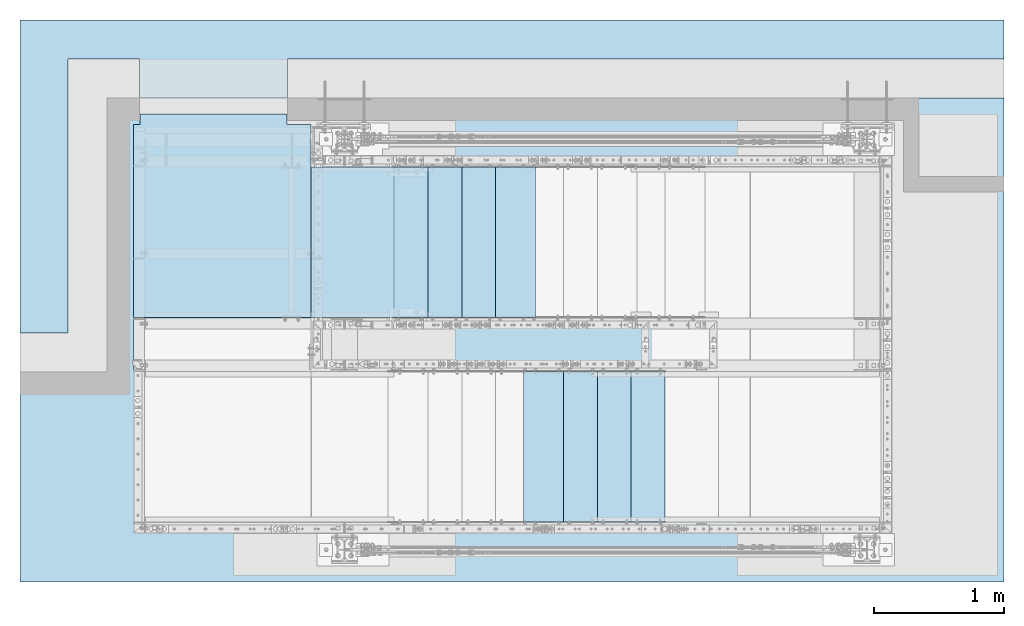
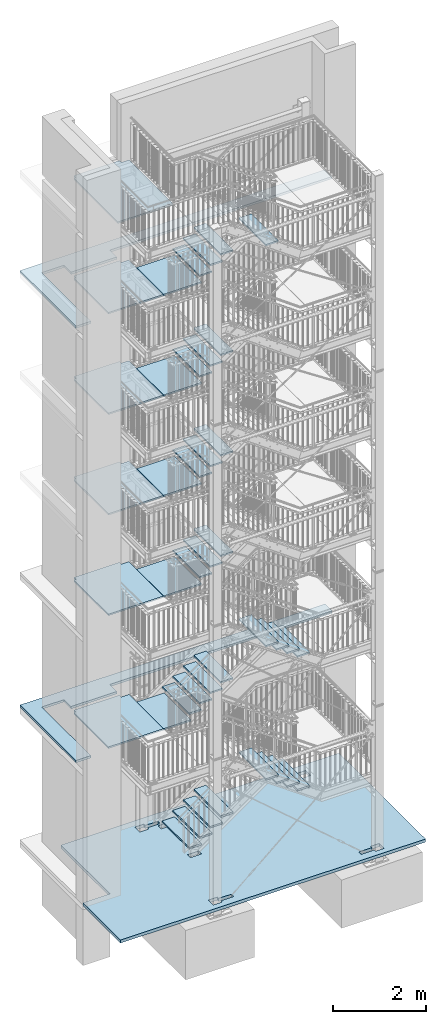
# One storey, part 145 of 831: 40 plates, 3 slabs, 26 openings.
"""IFC2X3 building model written with IfcOpenShell, lengths in millimetres."""

from ifc_helpers import new_model, entity, si_unit, converted_unit, frame, origin, origin_with_axes, place, context, project, spatial, polyline, outline, extrude, material, layer, layer_set, element, save


model = new_model("IFC2X3")

# Units and contexts
model_context = context("Model", 3, precision=1e-09, world=origin_with_axes())
ifc_project = project(units=[si_unit("LENGTHUNIT", "METRE", prefix="MILLI"), si_unit("AREAUNIT", "SQUARE_METRE"), si_unit("VOLUMEUNIT", "CUBIC_METRE"), converted_unit("PLANEANGLEUNIT", "DEGREE", entity("IfcPlaneAngleMeasure", 0.01745329), si_unit("PLANEANGLEUNIT", "RADIAN"), dimensions=[0, 0, 0, 0, 0, 0, 0])], contexts=[model_context])

# Site, building, storey
site_placement = place(None, origin_with_axes())
site = spatial("IfcSite", under=ifc_project, at=site_placement, Name="Site", CompositionType="ELEMENT")
building_placement = place(site_placement, origin_with_axes())
building = spatial("IfcBuilding", under=site, at=building_placement, Name="Struktur 1", CompositionType="ELEMENT")
storey_placement = place(building_placement, origin_with_axes())
storey = spatial("IfcBuildingStorey", under=building, at=storey_placement, Name="Default Storey", CompositionType="ELEMENT", Elevation=0.0)

# Plate, openings
ifc_material_1 = material(Name="S235JR")
ifc_layer_1 = layer(ifc_material_1, 40.0)
ifc_layer_set_1 = layer_set([ifc_layer_1], Name="S235JR")
plate_1_placement = place(None, frame((5236.713402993, 5736.736971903, 17834.0), z_axis=(0.0, 0.0, 1.0), x_axis=(-1.0, 0.0, 0.0)))
plate_1 = element("IfcPlate", 1, at=plate_1_placement, inside=storey, material=ifc_layer_set_1, Name="TopCoverGrate", ObjectType="TopCoverGrate", context=model_context, shape_type="SweptSolid", body=[
    extrude(outline(polyline([(635.0, -2.0), (635.0, -1975.0), (2000.0, -1975.0), (2000.0, -2.0), (635.0, -2.0)])), origin_with_axes(), (0.0, 0.0, 1.0), 40.0),
])
opening_1_placement = place(plate_1_placement, frame((0.0, 0.0, -0.1), z_axis=(0.0, 0.0, 1.0), x_axis=(-1.0, 0.0, 0.0)))
element("IfcOpeningElement", 2, at=opening_1_placement, cuts=plate_1, ObjectType="Opening", context=model_context, shape_type="SweptSolid", body=[
    extrude(outline(polyline([(-2047.903449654, 1895.002), (-1946.999292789, 1895.002), (-1946.999292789, 2034.091654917), (-2047.903449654, 2034.091654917), (-2047.903449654, 1895.002)])), origin(), (0.0, 0.0, 1.0), 40.2),
])
opening_2_placement = place(plate_1_placement, frame((0.0, 0.0, -0.1), z_axis=(0.0, 0.0, 1.0), x_axis=(-1.0, 0.0, 0.0)))
element("IfcOpeningElement", 3, at=opening_2_placement, cuts=plate_1, ObjectType="Opening", context=model_context, shape_type="SweptSolid", body=[
    extrude(outline(polyline([(-822.002, 1895.002), (-592.156333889, 1895.002), (-592.156333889, 2026.457267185), (-822.002, 2026.457267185), (-822.002, 1895.002)])), origin(), (0.0, 0.0, 1.0), 40.2),
])

plate_2_placement = place(None, frame((5541.713402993, 6148.736971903, 15254.0), z_axis=(0.0, 0.0, -1.0), x_axis=(-1.0, 0.0, 0.0)))
plate_2 = element("IfcPlate", 4, at=plate_2_placement, inside=storey, material=ifc_layer_set_1, Name="BottomCoverGrate", ObjectType="BottomCoverGrate", context=model_context, shape_type="SweptSolid", body=[
    extrude(outline(polyline([(940.0, 1563.0), (940.0, 0.0), (2305.0, 0.0), (2305.0, 1563.0), (940.0, 1563.0)])), origin_with_axes(), (0.0, 0.0, 1.0), 40.0),
])
opening_3_placement = place(plate_2_placement, frame((0.0, 0.0, -0.1), z_axis=(0.0, 0.0, 1.0), x_axis=(0.0, 1.0, 0.0)))
element("IfcOpeningElement", 5, at=opening_3_placement, cuts=plate_2, ObjectType="Opening", context=model_context, shape_type="SweptSolid", body=[
    extrude(outline(polyline([(1483.002, -1127.001), (1613.116493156, -1127.001), (1613.116493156, -894.923976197), (1483.002, -894.923976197), (1483.002, -1127.001)])), origin(), (0.0, 0.0, 1.0), 40.2),
])
opening_4_placement = place(plate_2_placement, frame((0.0, 0.0, -0.1), z_axis=(0.0, 0.0, 1.0), x_axis=(0.0, 1.0, 0.0)))
element("IfcOpeningElement", 6, at=opening_4_placement, cuts=plate_2, ObjectType="Opening", context=model_context, shape_type="SweptSolid", body=[
    extrude(outline(polyline([(1483.002, -2352.962104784), (1617.33985816, -2352.962104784), (1617.33985816, -2252.0), (1483.002, -2252.0), (1483.002, -2352.962104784)])), origin(), (0.0, 0.0, 1.0), 40.2),
])

# Plate
plate_3_placement = place(None, frame((5541.713402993, 6148.736971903, 15254.0), z_axis=(0.0, 0.0, -1.0), x_axis=(-1.0, 0.0, 0.0)))
element("IfcPlate", 7, at=plate_3_placement, inside=storey, material=ifc_layer_set_1, Name="BottomCoverGrate", ObjectType="BottomCoverGrate", context=model_context, shape_type="SweptSolid", body=[
    extrude(outline(polyline([(938.0, 1156.0), (0.0, 1156.0), (0.0, 0.0), (938.0, 0.0), (938.0, 1156.0)])), origin_with_axes(), (0.0, 0.0, 1.0), 40.0),
])

# Plate, openings
plate_4_placement = place(None, frame((5541.713402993, 6148.736971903, 12619.0), z_axis=(0.0, 0.0, -1.0), x_axis=(-1.0, 0.0, 0.0)))
plate_4 = element("IfcPlate", 8, at=plate_4_placement, inside=storey, material=ifc_layer_set_1, Name="BottomCoverGrate", ObjectType="BottomCoverGrate", context=model_context, shape_type="SweptSolid", body=[
    extrude(outline(polyline([(940.0, 1563.0), (940.0, 0.0), (2305.0, 0.0), (2305.0, 1563.0), (940.0, 1563.0)])), origin_with_axes(), (0.0, 0.0, 1.0), 40.0),
])
opening_5_placement = place(plate_4_placement, frame((0.0, 0.0, -0.1), z_axis=(0.0, 0.0, 1.0), x_axis=(0.0, 1.0, 0.0)))
element("IfcOpeningElement", 9, at=opening_5_placement, cuts=plate_4, ObjectType="Opening", context=model_context, shape_type="SweptSolid", body=[
    extrude(outline(polyline([(1482.998, -1127.005), (1617.863787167, -1127.005), (1617.863787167, -891.503049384), (1482.998, -891.503049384), (1482.998, -1127.005)])), origin(), (0.0, 0.0, 1.0), 40.2),
])
opening_6_placement = place(plate_4_placement, frame((0.0, 0.0, -0.1), z_axis=(0.0, 0.0, 1.0), x_axis=(0.0, 1.0, 0.0)))
element("IfcOpeningElement", 10, at=opening_6_placement, cuts=plate_4, ObjectType="Opening", context=model_context, shape_type="SweptSolid", body=[
    extrude(outline(polyline([(1482.999, -2349.145060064), (1619.251351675, -2349.145060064), (1619.251351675, -2251.996292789), (1482.999, -2251.996292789), (1482.999, -2349.145060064)])), origin(), (0.0, 0.0, 1.0), 40.2),
])

# Plate
plate_5_placement = place(None, frame((5541.713402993, 6148.736971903, 12619.0), z_axis=(0.0, 0.0, -1.0), x_axis=(-1.0, 0.0, 0.0)))
element("IfcPlate", 11, at=plate_5_placement, inside=storey, material=ifc_layer_set_1, Name="BottomCoverGrate", ObjectType="BottomCoverGrate", context=model_context, shape_type="SweptSolid", body=[
    extrude(outline(polyline([(938.0, 1156.0), (0.0, 1156.0), (0.0, 0.0), (938.0, 0.0), (938.0, 1156.0)])), origin_with_axes(), (0.0, 0.0, 1.0), 40.0),
])

# Plate, openings
plate_6_placement = place(None, frame((5541.713402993, 6148.736971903, 9992.0), z_axis=(0.0, 0.0, -1.0), x_axis=(-1.0, 0.0, 0.0)))
plate_6 = element("IfcPlate", 12, at=plate_6_placement, inside=storey, material=ifc_layer_set_1, Name="BottomCoverGrate", ObjectType="BottomCoverGrate", context=model_context, shape_type="SweptSolid", body=[
    extrude(outline(polyline([(940.0, 1563.0), (940.0, 0.0), (2305.0, 0.0), (2305.0, 1563.0), (940.0, 1563.0)])), origin_with_axes(), (0.0, 0.0, 1.0), 40.0),
])
opening_7_placement = place(plate_6_placement, frame((0.0, 0.0, -0.1), z_axis=(0.0, 0.0, 1.0), x_axis=(0.0, 1.0, 0.0)))
element("IfcOpeningElement", 13, at=opening_7_placement, cuts=plate_6, ObjectType="Opening", context=model_context, shape_type="SweptSolid", body=[
    extrude(outline(polyline([(1482.999, -1127.004), (1617.863787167, -1127.004), (1617.863787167, -891.503049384), (1482.999, -891.503049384), (1482.999, -1127.004)])), origin(), (0.0, 0.0, 1.0), 40.2),
])
opening_8_placement = place(plate_6_placement, frame((0.0, 0.0, -0.1), z_axis=(0.0, 0.0, 1.0), x_axis=(0.0, 1.0, 0.0)))
element("IfcOpeningElement", 14, at=opening_8_placement, cuts=plate_6, ObjectType="Opening", context=model_context, shape_type="SweptSolid", body=[
    extrude(outline(polyline([(1483.0, -2349.145060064), (1619.251351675, -2349.145060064), (1619.251351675, -2251.997292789), (1483.0, -2251.997292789), (1483.0, -2349.145060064)])), origin(), (0.0, 0.0, 1.0), 40.2),
])

# Plate
plate_7_placement = place(None, frame((5541.713402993, 6148.736971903, 9992.0), z_axis=(0.0, 0.0, -1.0), x_axis=(-1.0, 0.0, 0.0)))
element("IfcPlate", 15, at=plate_7_placement, inside=storey, material=ifc_layer_set_1, Name="BottomCoverGrate", ObjectType="BottomCoverGrate", context=model_context, shape_type="SweptSolid", body=[
    extrude(outline(polyline([(938.0, 1156.0), (0.0, 1156.0), (0.0, 0.0), (938.0, 0.0), (938.0, 1156.0)])), origin_with_axes(), (0.0, 0.0, 1.0), 40.0),
])

# Plate, openings
plate_8_placement = place(None, frame((5541.713402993, 6148.736971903, 7360.0), z_axis=(0.0, 0.0, -1.0), x_axis=(-1.0, 0.0, 0.0)))
plate_8 = element("IfcPlate", 16, at=plate_8_placement, inside=storey, material=ifc_layer_set_1, Name="BottomCoverGrate", ObjectType="BottomCoverGrate", context=model_context, shape_type="SweptSolid", body=[
    extrude(outline(polyline([(940.0, 1563.0), (940.0, 0.0), (2305.0, 0.0), (2305.0, 1563.0), (940.0, 1563.0)])), origin_with_axes(), (0.0, 0.0, 1.0), 40.0),
])
opening_9_placement = place(plate_8_placement, frame((0.0, 0.0, -0.1), z_axis=(0.0, 0.0, 1.0), x_axis=(0.0, 1.0, 0.0)))
element("IfcOpeningElement", 17, at=opening_9_placement, cuts=plate_8, ObjectType="Opening", context=model_context, shape_type="SweptSolid", body=[
    extrude(outline(polyline([(1483.0, -1127.003), (1617.863787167, -1127.003), (1617.863787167, -891.503049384), (1483.0, -891.503049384), (1483.0, -1127.003)])), origin(), (0.0, 0.0, 1.0), 40.2),
])
opening_10_placement = place(plate_8_placement, frame((0.0, 0.0, -0.1), z_axis=(0.0, 0.0, 1.0), x_axis=(0.0, 1.0, 0.0)))
element("IfcOpeningElement", 18, at=opening_10_placement, cuts=plate_8, ObjectType="Opening", context=model_context, shape_type="SweptSolid", body=[
    extrude(outline(polyline([(1483.001, -2349.145060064), (1619.251351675, -2349.145060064), (1619.251351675, -2251.998292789), (1483.001, -2251.998292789), (1483.001, -2349.145060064)])), origin(), (0.0, 0.0, 1.0), 40.2),
])

# Plate
plate_9_placement = place(None, frame((5541.713402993, 6148.736971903, 7360.0), z_axis=(0.0, 0.0, -1.0), x_axis=(-1.0, 0.0, 0.0)))
element("IfcPlate", 19, at=plate_9_placement, inside=storey, material=ifc_layer_set_1, Name="BottomCoverGrate", ObjectType="BottomCoverGrate", context=model_context, shape_type="SweptSolid", body=[
    extrude(outline(polyline([(938.0, 1156.0), (0.0, 1156.0), (0.0, 0.0), (938.0, 0.0), (938.0, 1156.0)])), origin_with_axes(), (0.0, 0.0, 1.0), 40.0),
])

# Plate, openings
plate_10_placement = place(None, frame((5281.713402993, 6148.736971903, 3887.0), z_axis=(0.0, 0.0, -1.0), x_axis=(-1.0, 0.0, 0.0)))
plate_10 = element("IfcPlate", 20, at=plate_10_placement, inside=storey, material=ifc_layer_set_1, Name="BottomCoverGrate", ObjectType="BottomCoverGrate", context=model_context, shape_type="SweptSolid", body=[
    extrude(outline(polyline([(680.0, 1563.0), (680.0, 0.0), (2045.0, 0.0), (2045.0, 1563.0), (680.0, 1563.0)])), origin_with_axes(), (0.0, 0.0, 1.0), 40.0),
])
opening_11_placement = place(plate_10_placement, frame((0.0, 0.0, -0.1), z_axis=(0.0, 0.0, 1.0), x_axis=(0.0, 1.0, 0.0)))
element("IfcOpeningElement", 21, at=opening_11_placement, cuts=plate_10, ObjectType="Opening", context=model_context, shape_type="SweptSolid", body=[
    extrude(outline(polyline([(1483.001, -2089.145060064), (1619.251351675, -2089.145060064), (1619.251351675, -1991.999), (1483.001, -1991.999), (1483.001, -2089.145060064)])), origin(), (0.0, 0.0, 1.0), 40.2),
])
opening_12_placement = place(plate_10_placement, frame((0.0, 0.0, -0.1), z_axis=(0.0, 0.0, 1.0), x_axis=(0.0, 1.0, 0.0)))
element("IfcOpeningElement", 22, at=opening_12_placement, cuts=plate_10, ObjectType="Opening", context=model_context, shape_type="SweptSolid", body=[
    extrude(outline(polyline([(1483.001, -867.002), (1617.863787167, -867.002), (1617.863787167, -631.503049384), (1483.001, -631.503049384), (1483.001, -867.002)])), origin(), (0.0, 0.0, 1.0), 40.2),
])

# Plates
plate_11_placement = place(None, frame((5281.713402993, 6148.736971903, 3887.0), z_axis=(0.0, 0.0, -1.0), x_axis=(-1.0, 0.0, 0.0)))
element("IfcPlate", 23, at=plate_11_placement, inside=storey, material=ifc_layer_set_1, Name="BottomCoverGrate", ObjectType="BottomCoverGrate", context=model_context, shape_type="SweptSolid", body=[
    extrude(outline(polyline([(678.0, 1156.0), (0.0, 1156.0), (0.0, 0.0), (678.0, 0.0), (678.0, 1156.0)])), origin_with_axes(), (0.0, 0.0, 1.0), 40.0),
])
plate_12_placement = place(None, frame((6169.213402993, 6726.736971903, 10514.9285719), z_axis=(0.0, 0.0, 1.0), x_axis=(0.0, 1.0, 0.0)))
element("IfcPlate", 24, at=plate_12_placement, inside=storey, material=ifc_layer_set_1, Name="Grate_Step#15", ObjectType="Grate_Step#15", context=model_context, shape_type="SweptSolid", body=[
    extrude(outline(polyline([(-577.0, -152.5), (577.0, -152.5), (577.0, 152.5), (-577.0, 152.5), (-577.0, -152.5)])), origin_with_axes(), (0.0, 0.0, 1.0), 40.0),
])
plate_13_placement = place(None, frame((5649.213402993, 6726.736971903, 10139.6428577), z_axis=(0.0, 0.0, 1.0), x_axis=(0.0, 1.0, 0.0)))
element("IfcPlate", 25, at=plate_13_placement, inside=storey, material=ifc_layer_set_1, Name="Grate_Step#1", ObjectType="Grate_Step#1", context=model_context, shape_type="SweptSolid", body=[
    extrude(outline(polyline([(-577.0, -152.5), (577.0, -152.5), (577.0, 152.5), (-577.0, 152.5), (-577.0, -152.5)])), origin_with_axes(), (0.0, 0.0, 1.0), 40.0),
])
plate_14_placement = place(None, frame((5909.213402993, 6726.736971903, 10327.2857148), z_axis=(0.0, 0.0, 1.0), x_axis=(0.0, 1.0, 0.0)))
element("IfcPlate", 26, at=plate_14_placement, inside=storey, material=ifc_layer_set_1, Name="Grate_Step#8", ObjectType="Grate_Step#8", context=model_context, shape_type="SweptSolid", body=[
    extrude(outline(polyline([(-577.0, -152.5), (577.0, -152.5), (577.0, 152.5), (-577.0, 152.5), (-577.0, -152.5)])), origin_with_axes(), (0.0, 0.0, 1.0), 40.0),
])
plate_15_placement = place(None, frame((6169.213402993, 6726.736971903, 7884.0), z_axis=(0.0, 0.0, 1.0), x_axis=(0.0, 1.0, 0.0)))
element("IfcPlate", 27, at=plate_15_placement, inside=storey, material=ifc_layer_set_1, Name="Grate_Step#15", ObjectType="Grate_Step#15", context=model_context, shape_type="SweptSolid", body=[
    extrude(outline(polyline([(-577.0, -152.5), (577.0, -152.5), (577.0, 152.5), (-577.0, 152.5), (-577.0, -152.5)])), origin_with_axes(), (0.0, 0.0, 1.0), 40.0),
])
plate_16_placement = place(None, frame((5649.213402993, 6726.736971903, 7508.0), z_axis=(0.0, 0.0, 1.0), x_axis=(0.0, 1.0, 0.0)))
element("IfcPlate", 28, at=plate_16_placement, inside=storey, material=ifc_layer_set_1, Name="Grate_Step#1", ObjectType="Grate_Step#1", context=model_context, shape_type="SweptSolid", body=[
    extrude(outline(polyline([(-577.0, -152.5), (577.0, -152.5), (577.0, 152.5), (-577.0, 152.5), (-577.0, -152.5)])), origin_with_axes(), (0.0, 0.0, 1.0), 40.0),
])
plate_17_placement = place(None, frame((5909.213402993, 6726.736971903, 7696.0), z_axis=(0.0, 0.0, 1.0), x_axis=(0.0, 1.0, 0.0)))
element("IfcPlate", 29, at=plate_17_placement, inside=storey, material=ifc_layer_set_1, Name="Grate_Step#8", ObjectType="Grate_Step#8", context=model_context, shape_type="SweptSolid", body=[
    extrude(outline(polyline([(-577.0, -152.5), (577.0, -152.5), (577.0, 152.5), (-577.0, 152.5), (-577.0, -152.5)])), origin_with_axes(), (0.0, 0.0, 1.0), 40.0),
])
plate_18_placement = place(None, frame((6169.213402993, 6726.736971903, 13143.6428573), z_axis=(0.0, 0.0, 1.0), x_axis=(0.0, 1.0, 0.0)))
element("IfcPlate", 30, at=plate_18_placement, inside=storey, material=ifc_layer_set_1, Name="Grate_Step#15", ObjectType="Grate_Step#15", context=model_context, shape_type="SweptSolid", body=[
    extrude(outline(polyline([(-577.0, -152.5), (577.0, -152.5), (577.0, 152.5), (-577.0, 152.5), (-577.0, -152.5)])), origin_with_axes(), (0.0, 0.0, 1.0), 40.0),
])
plate_19_placement = place(None, frame((5649.213402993, 6726.736971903, 12767.2142859), z_axis=(0.0, 0.0, 1.0), x_axis=(0.0, 1.0, 0.0)))
element("IfcPlate", 31, at=plate_19_placement, inside=storey, material=ifc_layer_set_1, Name="Grate_Step#1", ObjectType="Grate_Step#1", context=model_context, shape_type="SweptSolid", body=[
    extrude(outline(polyline([(-577.0, -152.5), (577.0, -152.5), (577.0, 152.5), (-577.0, 152.5), (-577.0, -152.5)])), origin_with_axes(), (0.0, 0.0, 1.0), 40.0),
])
plate_20_placement = place(None, frame((5909.213402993, 6726.736971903, 12955.4285716), z_axis=(0.0, 0.0, 1.0), x_axis=(0.0, 1.0, 0.0)))
element("IfcPlate", 32, at=plate_20_placement, inside=storey, material=ifc_layer_set_1, Name="Grate_Step#8", ObjectType="Grate_Step#8", context=model_context, shape_type="SweptSolid", body=[
    extrude(outline(polyline([(-577.0, -152.5), (577.0, -152.5), (577.0, 152.5), (-577.0, 152.5), (-577.0, -152.5)])), origin_with_axes(), (0.0, 0.0, 1.0), 40.0),
])
plate_21_placement = place(None, frame((6169.213402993, 6726.736971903, 15775.4285719), z_axis=(0.0, 0.0, 1.0), x_axis=(0.0, 1.0, 0.0)))
element("IfcPlate", 33, at=plate_21_placement, inside=storey, material=ifc_layer_set_1, Name="Grate_Step#15", ObjectType="Grate_Step#15", context=model_context, shape_type="SweptSolid", body=[
    extrude(outline(polyline([(-577.0, -152.5), (577.0, -152.5), (577.0, 152.5), (-577.0, 152.5), (-577.0, -152.5)])), origin_with_axes(), (0.0, 0.0, 1.0), 40.0),
])
plate_22_placement = place(None, frame((5649.213402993, 6726.736971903, 15401.1428577), z_axis=(0.0, 0.0, 1.0), x_axis=(0.0, 1.0, 0.0)))
element("IfcPlate", 34, at=plate_22_placement, inside=storey, material=ifc_layer_set_1, Name="Grate_Step#1", ObjectType="Grate_Step#1", context=model_context, shape_type="SweptSolid", body=[
    extrude(outline(polyline([(-577.0, -152.5), (577.0, -152.5), (577.0, 152.5), (-577.0, 152.5), (-577.0, -152.5)])), origin_with_axes(), (0.0, 0.0, 1.0), 40.0),
])
plate_23_placement = place(None, frame((5909.213402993, 6726.736971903, 15588.2857148), z_axis=(0.0, 0.0, 1.0), x_axis=(0.0, 1.0, 0.0)))
element("IfcPlate", 35, at=plate_23_placement, inside=storey, material=ifc_layer_set_1, Name="Grate_Step#8", ObjectType="Grate_Step#8", context=model_context, shape_type="SweptSolid", body=[
    extrude(outline(polyline([(-577.0, -152.5), (577.0, -152.5), (577.0, 152.5), (-577.0, 152.5), (-577.0, -152.5)])), origin_with_axes(), (0.0, 0.0, 1.0), 40.0),
])
plate_24_placement = place(None, frame((5909.213402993, 6726.736971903, 885.3157888), z_axis=(0.0, 0.0, 1.0), x_axis=(0.0, 1.0, 0.0)))
element("IfcPlate", 36, at=plate_24_placement, inside=storey, material=ifc_layer_set_1, Name="Grate_Step#15", ObjectType="Grate_Step#15", context=model_context, shape_type="SweptSolid", body=[
    extrude(outline(polyline([(-577.0, -152.5), (577.0, -152.5), (577.0, 152.5), (-577.0, 152.5), (-577.0, -152.5)])), origin_with_axes(), (0.0, 0.0, 1.0), 40.0),
])
for number, where, z_axis, x_axis, name in (
    (37, (5649.213402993, 6726.736971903, 700.2105256), (0.0, 0.0, 1.0), (0.0, 1.0, 0.0), "Grate_Step#8"),
    (38, (5649.213402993, 6726.736971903, 4212.5789471), (0.0, 0.0, 1.0), (0.0, 1.0, 0.0), "Grate_Step#8"),
):
    element("IfcPlate", number, at=place(None, frame(where, z_axis=z_axis, x_axis=x_axis)), inside=storey, material=ifc_layer_set_1, Name=name, ObjectType="Grate_Step#8", context=model_context, shape_type="SweptSolid", body=[
        extrude(outline(polyline([(-577.0, -152.5), (577.0, -152.5), (577.0, 152.5), (-577.0, 152.5), (-577.0, -152.5)])), origin_with_axes(), (0.0, 0.0, 1.0), 40.0),
    ])
plate_25_placement = place(None, frame((6169.213402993, 6726.736971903, 4578.1578945), z_axis=(0.0, 0.0, 1.0), x_axis=(0.0, 1.0, 0.0)))
element("IfcPlate", 39, at=plate_25_placement, inside=storey, material=ifc_layer_set_1, Name="Grate_Step#22", ObjectType="Grate_Step#22", context=model_context, shape_type="SweptSolid", body=[
    extrude(outline(polyline([(-577.0, -152.5), (577.0, -152.5), (577.0, 152.5), (-577.0, 152.5), (-577.0, -152.5)])), origin_with_axes(), (0.0, 0.0, 1.0), 40.0),
])
plate_26_placement = place(None, frame((5389.213402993, 6726.736971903, 4029.7894734), z_axis=(0.0, 0.0, 1.0), x_axis=(0.0, 1.0, 0.0)))
element("IfcPlate", 40, at=plate_26_placement, inside=storey, material=ifc_layer_set_1, Name="Grate_Step#1", ObjectType="Grate_Step#1", context=model_context, shape_type="SweptSolid", body=[
    extrude(outline(polyline([(-577.0, -152.5), (577.0, -152.5), (577.0, 152.5), (-577.0, 152.5), (-577.0, -152.5)])), origin_with_axes(), (0.0, 0.0, 1.0), 40.0),
])
plate_27_placement = place(None, frame((6169.213402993, 6726.736971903, 1070.421052), z_axis=(0.0, 0.0, 1.0), x_axis=(0.0, 1.0, 0.0)))
element("IfcPlate", 41, at=plate_27_placement, inside=storey, material=ifc_layer_set_1, Name="Grate_Step#22", ObjectType="Grate_Step#22", context=model_context, shape_type="SweptSolid", body=[
    extrude(outline(polyline([(-577.0, -152.5), (577.0, -152.5), (577.0, 152.5), (-577.0, 152.5), (-577.0, -152.5)])), origin_with_axes(), (0.0, 0.0, 1.0), 40.0),
])
plate_28_placement = place(None, frame((5389.213402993, 6726.736971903, 515.1052624), z_axis=(0.0, 0.0, 1.0), x_axis=(0.0, 1.0, 0.0)))
element("IfcPlate", 42, at=plate_28_placement, inside=storey, material=ifc_layer_set_1, Name="Grate_Step#1", ObjectType="Grate_Step#1", context=model_context, shape_type="SweptSolid", body=[
    extrude(outline(polyline([(-577.0, -152.5), (577.0, -152.5), (577.0, 152.5), (-577.0, 152.5), (-577.0, -152.5)])), origin_with_axes(), (0.0, 0.0, 1.0), 40.0),
])
plate_29_placement = place(None, frame((5909.213402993, 6726.736971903, 4395.3684208), z_axis=(0.0, 0.0, 1.0), x_axis=(0.0, 1.0, 0.0)))
element("IfcPlate", 43, at=plate_29_placement, inside=storey, material=ifc_layer_set_1, Name="Grate_Step#15", ObjectType="Grate_Step#15", context=model_context, shape_type="SweptSolid", body=[
    extrude(outline(polyline([(-577.0, -152.5), (577.0, -152.5), (577.0, 152.5), (-577.0, 152.5), (-577.0, -152.5)])), origin_with_axes(), (0.0, 0.0, 1.0), 40.0),
])
plate_30_placement = place(None, frame((6384.213402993, 5156.736971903, 16898.2857145), z_axis=(0.0, 0.0, 1.0), x_axis=(0.0, -1.0, 0.0)))
element("IfcPlate", 44, at=plate_30_placement, inside=storey, material=ifc_layer_set_1, Name="Grate_Step#8", ObjectType="Grate_Step#8", context=model_context, shape_type="SweptSolid", body=[
    extrude(outline(polyline([(-577.0, -152.5), (577.0, -152.5), (577.0, 152.5), (-577.0, 152.5), (-577.0, -152.5)])), origin_with_axes(), (0.0, 0.0, 1.0), 40.0),
])
plate_31_placement = place(None, frame((6384.213402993, 5156.736971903, 6406.0526315), z_axis=(0.0, 0.0, 1.0), x_axis=(0.0, -1.0, 0.0)))
element("IfcPlate", 45, at=plate_31_placement, inside=storey, material=ifc_layer_set_1, Name="Grate_Step#22", ObjectType="Grate_Step#22", context=model_context, shape_type="SweptSolid", body=[
    extrude(outline(polyline([(-577.0, -152.5), (577.0, -152.5), (577.0, 152.5), (-577.0, 152.5), (-577.0, -152.5)])), origin_with_axes(), (0.0, 0.0, 1.0), 40.0),
])
plate_32_placement = place(None, frame((7164.213402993, 5156.736971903, 5857.6842104), z_axis=(0.0, 0.0, 1.0), x_axis=(0.0, -1.0, 0.0)))
element("IfcPlate", 46, at=plate_32_placement, inside=storey, material=ifc_layer_set_1, Name="Grate_Step#1", ObjectType="Grate_Step#1", context=model_context, shape_type="SweptSolid", body=[
    extrude(outline(polyline([(-577.0, -152.5), (577.0, -152.5), (577.0, 152.5), (-577.0, 152.5), (-577.0, -152.5)])), origin_with_axes(), (0.0, 0.0, 1.0), 40.0),
])
plate_33_placement = place(None, frame((6644.213402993, 5156.736971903, 2736.3684208), z_axis=(0.0, 0.0, 1.0), x_axis=(0.0, -1.0, 0.0)))
element("IfcPlate", 47, at=plate_33_placement, inside=storey, material=ifc_layer_set_1, Name="Grate_Step#15", ObjectType="Grate_Step#15", context=model_context, shape_type="SweptSolid", body=[
    extrude(outline(polyline([(-577.0, -152.5), (577.0, -152.5), (577.0, 152.5), (-577.0, 152.5), (-577.0, -152.5)])), origin_with_axes(), (0.0, 0.0, 1.0), 40.0),
])
plate_34_placement = place(None, frame((7164.213402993, 5156.736971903, 2366.1578944), z_axis=(0.0, 0.0, 1.0), x_axis=(0.0, -1.0, 0.0)))
element("IfcPlate", 48, at=plate_34_placement, inside=storey, material=ifc_layer_set_1, Name="Grate_Step#1", ObjectType="Grate_Step#1", context=model_context, shape_type="SweptSolid", body=[
    extrude(outline(polyline([(-577.0, -152.5), (577.0, -152.5), (577.0, 152.5), (-577.0, 152.5), (-577.0, -152.5)])), origin_with_axes(), (0.0, 0.0, 1.0), 40.0),
])
for number, where, z_axis, x_axis, name in (
    (49, (6904.213402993, 5156.736971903, 6040.4736841), (0.0, 0.0, 1.0), (0.0, -1.0, 0.0), "Grate_Step#8"),
    (50, (6904.213402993, 5156.736971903, 2551.2631576), (0.0, 0.0, 1.0), (0.0, -1.0, 0.0), "Grate_Step#8"),
):
    element("IfcPlate", number, at=place(None, frame(where, z_axis=z_axis, x_axis=x_axis)), inside=storey, material=ifc_layer_set_1, Name=name, ObjectType="Grate_Step#8", context=model_context, shape_type="SweptSolid", body=[
        extrude(outline(polyline([(-577.0, -152.5), (577.0, -152.5), (577.0, 152.5), (-577.0, 152.5), (-577.0, -152.5)])), origin_with_axes(), (0.0, 0.0, 1.0), 40.0),
    ])
plate_35_placement = place(None, frame((6644.213402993, 5156.736971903, 6223.2631578), z_axis=(0.0, 0.0, 1.0), x_axis=(0.0, -1.0, 0.0)))
element("IfcPlate", 51, at=plate_35_placement, inside=storey, material=ifc_layer_set_1, Name="Grate_Step#15", ObjectType="Grate_Step#15", context=model_context, shape_type="SweptSolid", body=[
    extrude(outline(polyline([(-577.0, -152.5), (577.0, -152.5), (577.0, 152.5), (-577.0, 152.5), (-577.0, -152.5)])), origin_with_axes(), (0.0, 0.0, 1.0), 40.0),
])
plate_36_placement = place(None, frame((6384.213402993, 5156.736971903, 2921.473684), z_axis=(0.0, 0.0, 1.0), x_axis=(0.0, -1.0, 0.0)))
element("IfcPlate", 52, at=plate_36_placement, inside=storey, material=ifc_layer_set_1, Name="Grate_Step#22", ObjectType="Grate_Step#22", context=model_context, shape_type="SweptSolid", body=[
    extrude(outline(polyline([(-577.0, -152.5), (577.0, -152.5), (577.0, 152.5), (-577.0, 152.5), (-577.0, -152.5)])), origin_with_axes(), (0.0, 0.0, 1.0), 40.0),
])

# Slab, opening
ifc_material_2 = material(Name="C25/30")
ifc_layer_2 = layer(ifc_material_2, 60.0)
ifc_layer_set_2 = layer_set([ifc_layer_2], Name="C25/30")
slab_1_placement = place(None, frame((6142.06017303, 7231.736471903, 15214.0), z_axis=(0.0, 0.0, 1.0), x_axis=(1.0, 0.0, 0.0)))
slab_1 = element("IfcSlab", 53, at=slab_1_placement, inside=storey, material=ifc_layer_set_2, Name="-", ObjectType="-", context=model_context, shape_type="SweptSolid", body=[
    extrude(outline(polyline([(-3774.653229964, -1200.0005), (3774.653229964, -1200.0005), (3774.653229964, 1200.0005), (-3774.653229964, 1200.0005), (-3774.653229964, -1200.0005)])), origin_with_axes(), (0.0, 0.0, 1.0), 60.0),
])
opening_13_placement = place(slab_1_placement, frame((0.0, 0.0, -0.1), z_axis=(0.0, 0.0, 1.0), x_axis=(1.0, 0.0, 0.0)))
element("IfcOpeningElement", 54, at=opening_13_placement, cuts=slab_1, ObjectType="Opening", context=model_context, shape_type="SweptSolid", body=[
    extrude(outline(polyline([(4245.822175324, -1514.534847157), (4245.822175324, 900.0015), (-1722.347770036, 900.0015), (-1722.347770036, 600.0025), (-2857.34677004, 600.0025), (-2857.34777004, 900.0015), (-3407.346770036, 900.0015), (-3407.346770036, -1707.828193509), (4245.822175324, -1514.534847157)])), origin(), (0.0, 0.0, 1.0), 60.2),
])

slab_2_placement = place(None, frame((6142.06017303, 7231.736471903, 3847.0), z_axis=(0.0, 0.0, 1.0), x_axis=(1.0, 0.0, 0.0)))
slab_2 = element("IfcSlab", 55, at=slab_2_placement, inside=storey, material=ifc_layer_set_2, Name="-", ObjectType="-", context=model_context, shape_type="SweptSolid", body=[
    extrude(outline(polyline([(-3774.653229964, -1200.0005), (3774.653229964, -1200.0005), (3774.653229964, 1200.0005), (-3774.653229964, 1200.0005), (-3774.653229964, -1200.0005)])), origin_with_axes(), (0.0, 0.0, 1.0), 60.0),
])
opening_14_placement = place(slab_2_placement, frame((0.0, 0.0, -0.1), z_axis=(0.0, 0.0, 1.0), x_axis=(1.0, 0.0, 0.0)))
element("IfcOpeningElement", 56, at=opening_14_placement, cuts=slab_2, ObjectType="Opening", context=model_context, shape_type="SweptSolid", body=[
    extrude(outline(polyline([(4245.822175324, -1514.534847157), (4245.822175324, 900.0015), (-1722.349770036, 900.0015), (-1722.349770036, 600.0025), (-2857.345770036, 600.0025), (-2857.345770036, 900.0015), (-3407.346770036, 900.0015), (-3407.346770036, -1707.828193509), (4245.822175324, -1514.534847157)])), origin(), (0.0, 0.0, 1.0), 60.2),
])

# Slab, openings
ifc_layer_3 = layer(ifc_material_2, 80.0)
ifc_layer_set_3 = layer_set([ifc_layer_3], Name="C25/30")
slab_3_placement = place(None, frame((6142.06017303, 6276.736971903, 290.0), z_axis=(0.0, 0.0, 1.0), x_axis=(1.0, 0.0, 0.0)))
slab_3 = element("IfcSlab", 57, at=slab_3_placement, inside=storey, material=ifc_layer_set_3, Name="-", ObjectType="-", context=model_context, shape_type="SweptSolid", body=[
    extrude(outline(polyline([(-3774.653229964, -2155.0), (3774.653229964, -2155.0), (3774.653229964, 2155.0), (-3774.653229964, 2155.0), (-3774.653229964, -2155.0)])), origin_with_axes(), (0.0, 0.0, 1.0), 80.0),
])
opening_15_placement = place(slab_3_placement, frame((0.0, 0.0, -0.1), z_axis=(0.0, 0.0, 1.0), x_axis=(1.0, 0.0, 0.0)))
element("IfcOpeningElement", 58, at=opening_15_placement, cuts=slab_3, ObjectType="Opening", context=model_context, shape_type="SweptSolid", body=[
    extrude(outline(polyline([(-4476.195545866, -545.001), (-3107.346770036, -545.001), (-3107.346770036, 2979.216049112), (-4476.195545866, 2979.216049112), (-4476.195545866, -545.001)])), origin(), (0.0, 0.0, 1.0), 80.2),
])
opening_16_placement = place(slab_3_placement, frame((0.0, 0.0, -0.1), z_axis=(0.0, 0.0, 1.0), x_axis=(1.0, 0.0, 0.0)))
element("IfcOpeningElement", 59, at=opening_16_placement, cuts=slab_3, ObjectType="Opening", context=model_context, shape_type="SweptSolid", body=[
    extrude(outline(polyline([(-4161.289750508, 1555.0), (4990.64168982, 1555.0), (4990.64168982, 3085.136486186), (-4161.289750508, 3085.136486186), (-4161.289750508, 1555.0)])), origin(), (0.0, 0.0, 1.0), 80.2),
])
opening_17_placement = place(slab_3_placement, frame((0.0, 0.0, -0.1), z_axis=(0.0, 0.0, 1.0), x_axis=(1.0, 0.0, 0.0)))
element("IfcOpeningElement", 60, at=opening_17_placement, cuts=slab_3, ObjectType="Opening", context=model_context, shape_type="SweptSolid", body=[
    extrude(outline(polyline([(-1395.347770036, -2015.001), (-1175.345770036, -2015.001), (-1175.345770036, -1804.999), (-1395.347770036, -1804.999), (-1395.347770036, -2015.001)])), origin(), (0.0, 0.0, 1.0), 80.2),
])
opening_18_placement = place(slab_3_placement, frame((0.0, 0.0, -0.1), z_axis=(0.0, 0.0, 1.0), x_axis=(1.0, 0.0, 0.0)))
element("IfcOpeningElement", 61, at=opening_18_placement, cuts=slab_3, ObjectType="Opening", context=model_context, shape_type="SweptSolid", body=[
    extrude(outline(polyline([(2614.652229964, -2015.001), (2834.654229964, -2015.001), (2834.654229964, -1804.999), (2614.652229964, -1804.999), (2614.652229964, -2015.001)])), origin(), (0.0, 0.0, 1.0), 80.2),
])
opening_19_placement = place(slab_3_placement, frame((0.0, 0.0, -0.1), z_axis=(0.0, 0.0, 1.0), x_axis=(1.0, 0.0, 0.0)))
element("IfcOpeningElement", 62, at=opening_19_placement, cuts=slab_3, ObjectType="Opening", context=model_context, shape_type="SweptSolid", body=[
    extrude(outline(polyline([(2614.652229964, 1134.999), (2834.654229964, 1134.999), (2834.654229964, 1345.001), (2614.652229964, 1345.001), (2614.652229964, 1134.999)])), origin(), (0.0, 0.0, 1.0), 80.2),
])
opening_20_placement = place(slab_3_placement, frame((0.0, 0.0, -0.1), z_axis=(0.0, 0.0, 1.0), x_axis=(1.0, 0.0, 0.0)))
element("IfcOpeningElement", 63, at=opening_20_placement, cuts=slab_3, ObjectType="Opening", context=model_context, shape_type="SweptSolid", body=[
    extrude(outline(polyline([(-1395.347770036, 1134.999), (-1175.345770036, 1134.999), (-1175.345770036, 1345.001), (-1395.347770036, 1345.001), (-1395.347770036, 1134.999)])), origin(), (0.0, 0.0, 1.0), 80.2),
])
opening_21_placement = place(slab_3_placement, frame((0.0, 0.0, -0.1), z_axis=(0.0, 0.0, 1.0), x_axis=(1.0, 0.0, 0.0)))
element("IfcOpeningElement", 64, at=opening_21_placement, cuts=slab_3, ObjectType="Opening", context=model_context, shape_type="SweptSolid", body=[
    extrude(outline(polyline([(-1253.447456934, -1960.001), (-855.345770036, -1960.001), (-855.345770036, -1859.999), (-1253.447456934, -1859.999), (-1253.447456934, -1960.001)])), origin(), (0.0, 0.0, 1.0), 80.2),
])
opening_22_placement = place(slab_3_placement, frame((0.0, 0.0, -0.1), z_axis=(0.0, 0.0, 1.0), x_axis=(1.0, 0.0, 0.0)))
element("IfcOpeningElement", 65, at=opening_22_placement, cuts=slab_3, ObjectType="Opening", context=model_context, shape_type="SweptSolid", body=[
    extrude(outline(polyline([(2294.652229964, -1960.001), (2691.515744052, -1960.001), (2691.515744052, -1859.999), (2294.652229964, -1859.999), (2294.652229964, -1960.001)])), origin(), (0.0, 0.0, 1.0), 80.2),
])
opening_23_placement = place(slab_3_placement, frame((0.0, 0.0, -0.1), z_axis=(0.0, 0.0, 1.0), x_axis=(1.0, 0.0, 0.0)))
element("IfcOpeningElement", 66, at=opening_23_placement, cuts=slab_3, ObjectType="Opening", context=model_context, shape_type="SweptSolid", body=[
    extrude(outline(polyline([(2294.652229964, 1189.999), (2684.889905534, 1189.999), (2684.889905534, 1290.001), (2294.652229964, 1290.001), (2294.652229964, 1189.999)])), origin(), (0.0, 0.0, 1.0), 80.2),
])
opening_24_placement = place(slab_3_placement, frame((0.0, 0.0, -0.1), z_axis=(0.0, 0.0, 1.0), x_axis=(1.0, 0.0, 0.0)))
element("IfcOpeningElement", 67, at=opening_24_placement, cuts=slab_3, ObjectType="Opening", context=model_context, shape_type="SweptSolid", body=[
    extrude(outline(polyline([(-1255.148517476, 1189.999), (-855.345770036, 1189.999), (-855.345770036, 1290.001), (-1255.148517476, 1290.001), (-1255.148517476, 1189.999)])), origin(), (0.0, 0.0, 1.0), 80.2),
])
opening_25_placement = place(slab_3_placement, frame((0.0, 0.0, -0.1), z_axis=(0.0, 0.0, 1.0), x_axis=(1.0, 0.0, 0.0)))
element("IfcOpeningElement", 68, at=opening_25_placement, cuts=slab_3, ObjectType="Opening", context=model_context, shape_type="SweptSolid", body=[
    extrude(outline(polyline([(-940.347770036, 1009.999), (-660.344849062, 1009.999), (-660.344849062, 1135.001), (-940.347770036, 1135.001), (-940.347770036, 1009.999)])), origin(), (0.0, 0.0, 1.0), 80.2),
])
opening_26_placement = place(slab_3_placement, frame((0.0, 0.0, -0.1), z_axis=(0.0, 0.0, 1.0), x_axis=(1.0, 0.0, 0.0)))
element("IfcOpeningElement", 69, at=opening_26_placement, cuts=slab_3, ObjectType="Opening", context=model_context, shape_type="SweptSolid", body=[
    extrude(outline(polyline([(-940.347770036, -235.001), (-660.344849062, -235.001), (-660.344849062, -109.999), (-940.347770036, -109.999), (-940.347770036, -235.001)])), origin(), (0.0, 0.0, 1.0), 80.2),
])

save(model, "model.ifc")
